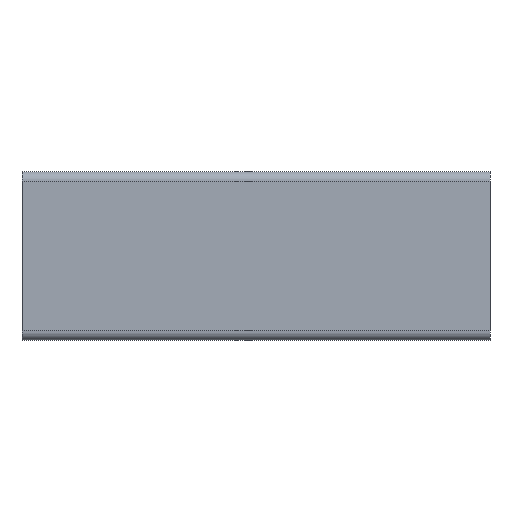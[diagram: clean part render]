
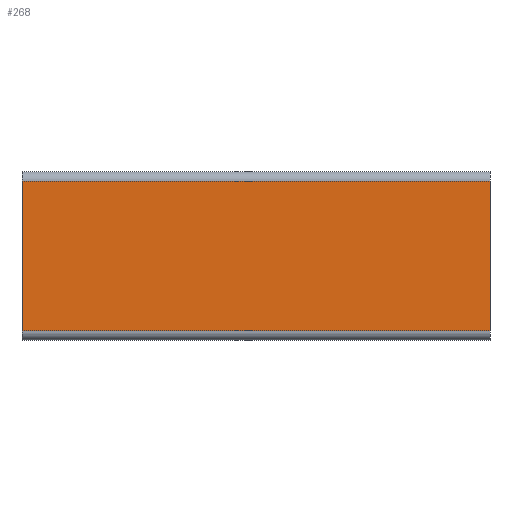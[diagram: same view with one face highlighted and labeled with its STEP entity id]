
A CAD part, front view. The second image highlights one B-rep face of the part: STEP entity #268.
In plain terms, the highlighted planar face has unit normal (0, -1, 0).
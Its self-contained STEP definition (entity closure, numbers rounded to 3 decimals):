
#210=CARTESIAN_POINT('',(100.0,-43.25,2.0));
#211=VERTEX_POINT('',#210);
#219=CARTESIAN_POINT('',(0.0,-43.25,2.0));
#220=VERTEX_POINT('',#219);
#221=CARTESIAN_POINT('',(0.0,-43.25,2.0));
#222=DIRECTION('',(1.0,0.0,0.0));
#223=VECTOR('',#222,100.0);
#224=LINE('',#221,#223);
#225=EDGE_CURVE('',#220,#211,#224,.T.);
#238=CARTESIAN_POINT('',(0.0,-43.25,2.0));
#239=DIRECTION('',(0.0,-1.0,0.0));
#240=DIRECTION('',(0.0,0.0,-1.0));
#241=AXIS2_PLACEMENT_3D('',#238,#239,#240);
#242=PLANE('',#241);
#243=CARTESIAN_POINT('',(100.0,-43.25,34.0));
#244=VERTEX_POINT('',#243);
#245=CARTESIAN_POINT('',(100.0,-43.25,2.0));
#246=DIRECTION('',(0.0,0.0,1.0));
#247=VECTOR('',#246,32.0);
#248=LINE('',#245,#247);
#249=EDGE_CURVE('',#211,#244,#248,.T.);
#250=ORIENTED_EDGE('',*,*,#249,.T.);
#251=CARTESIAN_POINT('',(0.0,-43.25,34.0));
#252=VERTEX_POINT('',#251);
#253=CARTESIAN_POINT('',(0.0,-43.25,34.0));
#254=DIRECTION('',(1.0,0.0,0.0));
#255=VECTOR('',#254,100.0);
#256=LINE('',#253,#255);
#257=EDGE_CURVE('',#252,#244,#256,.T.);
#258=ORIENTED_EDGE('',*,*,#257,.F.);
#259=CARTESIAN_POINT('',(0.0,-43.25,34.0));
#260=DIRECTION('',(0.0,0.0,-1.0));
#261=VECTOR('',#260,32.0);
#262=LINE('',#259,#261);
#263=EDGE_CURVE('',#252,#220,#262,.T.);
#264=ORIENTED_EDGE('',*,*,#263,.T.);
#265=ORIENTED_EDGE('',*,*,#225,.T.);
#266=EDGE_LOOP('',(#250,#258,#264,#265));
#267=FACE_OUTER_BOUND('',#266,.T.);
#268=ADVANCED_FACE('',(#267),#242,.T.);
